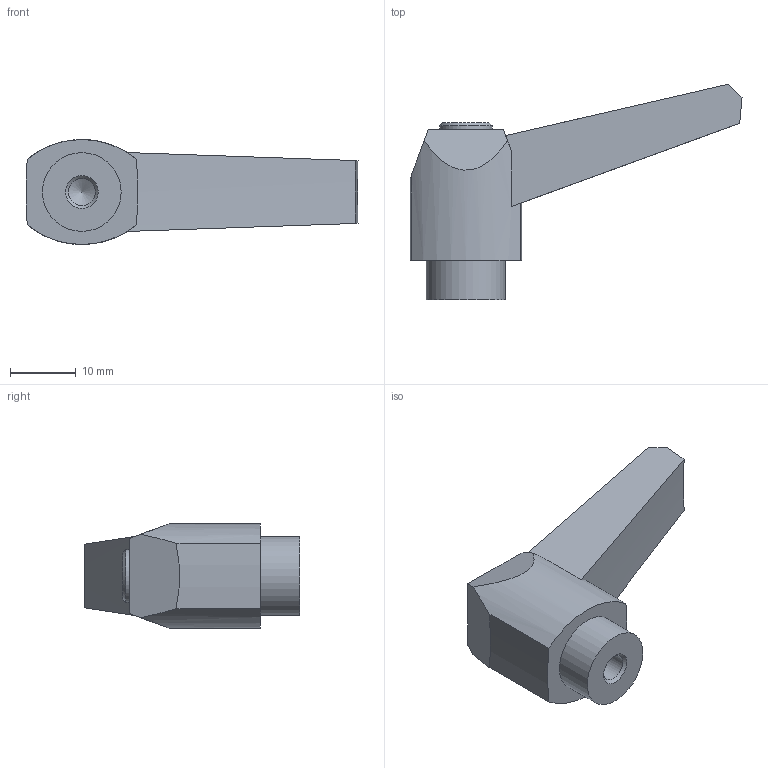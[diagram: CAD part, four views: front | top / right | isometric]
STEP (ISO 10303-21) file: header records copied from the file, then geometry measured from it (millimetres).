
FILE_DESCRIPTION( ( 'STEP AP203' ), '1' );
FILE_NAME( 'C:/Temp/Ganter_Step_05_03_2020/data/2_1/gn_500/gn_500_mb/Adjustable hand lever GN 500-42-M5-SW.stp', '2020-03-05T11:26:28', ( 'License CC BY-ND 4.0' ), ( 'CADENAS' ), ' ', 'PARTsolutions', ' ' );
FILE_SCHEMA( ( 'CONFIG_CONTROL_DESIGN' ) );
Length unit declared in the file: millimetre
Products named in the file (1): _Adjustable hand lever GN 500-42-M5-SW
Bounding box: 50.59 x 32.85 x 16 mm (x, y, z)
Volume: 8156.9 mm3; surface area: 3168.2 mm2
Topology: 1 solids, 1 shells, 24 faces, 58 edges, 38 vertices
Faces by surface type: plane 10, cone 7, cylinder 7
Full cylindrical faces by diameter (mm): 4.134 x1, 8 x1, 12 x1
Entity records: 712 total; most frequent: CARTESIAN_POINT 124, DIRECTION 118, ORIENTED_EDGE 100, EDGE_CURVE 50, AXIS2_PLACEMENT_3D 47, VERTEX_POINT 37, EDGE_LOOP 32, FACE_OUTER_BOUND 27
